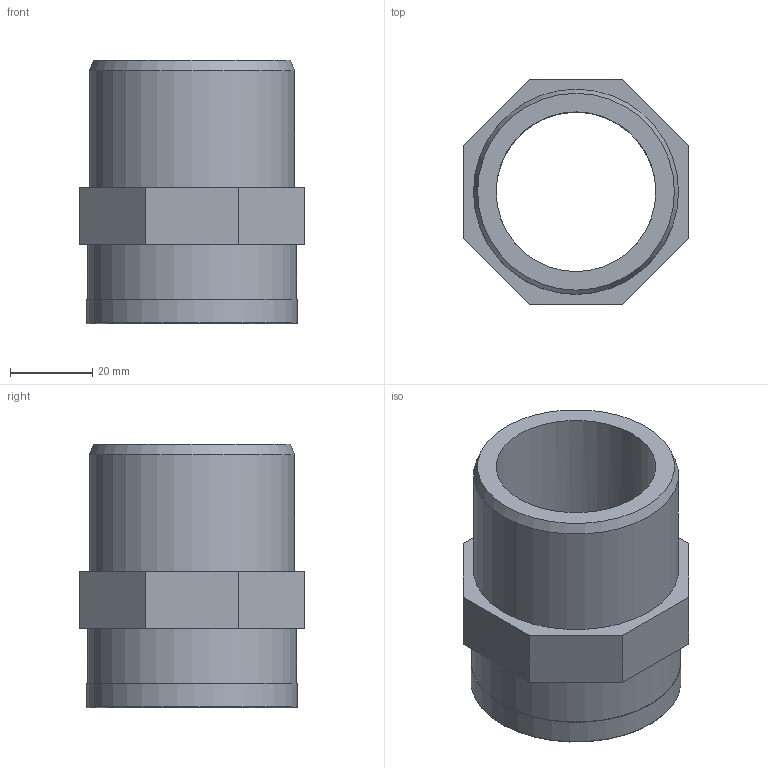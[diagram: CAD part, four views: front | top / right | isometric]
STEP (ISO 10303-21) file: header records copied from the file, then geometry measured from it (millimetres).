
FILE_DESCRIPTION(/* description */ (''),/* implementation_level */ '2;1');
FILE_NAME(/* name */ 'C:\Users\POLYPIPE\Desktop\DATASET INVENTOR\LIBRERIA EFFAST\RACCORDI 3DxWEB\RGR\3D_RGRAFR\3D_RGRAFR050E.stp',/* time_stamp */ '2018-01-19T17:31:28+01:00',/* author */ ('POLYPIPE'),/* organization */ (''),/* preprocessor_version */ 'ST-DEVELOPER v16.1',/* originating_system */ 'Autodesk Inventor 2016',/* authorisation */ '');
FILE_SCHEMA (('CONFIG_CONTROL_DESIGN'));
Length unit declared in the file: centimetre
Products named in the file (1): 3D_RGRAFR050E
Bounding box: 55 x 55 x 64.25 mm (x, y, z)
Volume: 56457.2 mm3; surface area: 22959.9 mm2
Topology: 1 solids, 1 shells, 27 faces, 61 edges, 40 vertices
Faces by surface type: plane 15, cylinder 5, bspline 5, cone 1, torus 1
Full cylindrical faces by diameter (mm): 38.952 x1, 45 x1, 50 x1, 51 x1, 51.3 x1
Entity records: 4480 total; most frequent: CARTESIAN_POINT 3866, ORIENTED_EDGE 104, DIRECTION 101, EDGE_CURVE 52, EDGE_LOOP 40, VERTEX_POINT 38, AXIS2_PLACEMENT_3D 37, STYLED_ITEM 28
